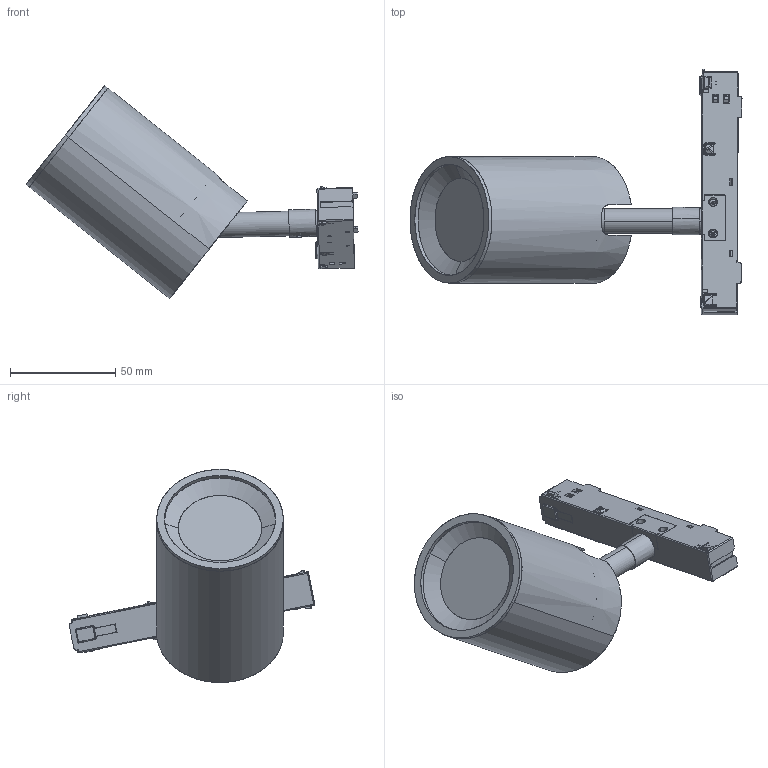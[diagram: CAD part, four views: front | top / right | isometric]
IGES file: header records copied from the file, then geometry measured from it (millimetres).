
Start section: SolidWorks IGES file using analytic representation for surfaces
Global section: file name: C:\Users\Agustin\Desktop\ANGELA\2026\ARQUITECTURAL\LATTO\3D\LATTO_tracklight.IGS; native system: SolidWorks 2023; preprocessor: SolidWorks 2023; author: Agustin; date: 260429.105335; units: millimetre
Bounding box: 157.42 x 116.44 x 101.08 mm (x, y, z)
Surface area: 60986.7 mm2 (no closed solid volume)
Topology: 0 solids, 0 shells, 1620 faces, 12352 edges, 12323 vertices
Faces by surface type: bspline 1320, revolution 300
